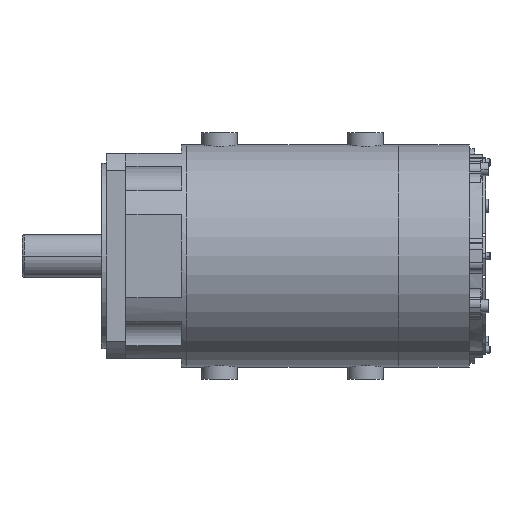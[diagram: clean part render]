
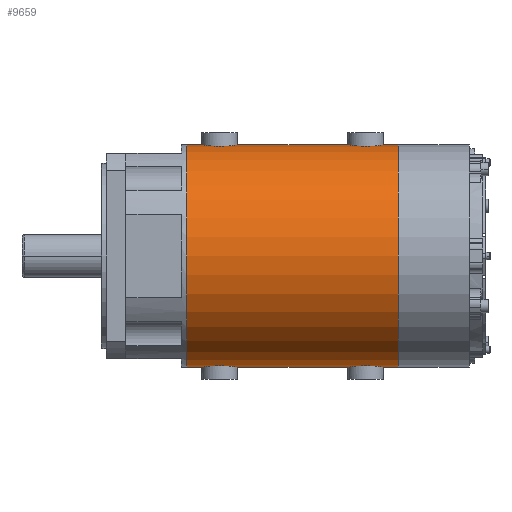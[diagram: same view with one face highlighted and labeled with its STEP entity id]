
A CAD part, front view. The second image highlights one B-rep face of the part: STEP entity #9659.
In plain terms, the highlighted cylindrical face has radius 108 mm (diameter 216 mm), a partial arc.
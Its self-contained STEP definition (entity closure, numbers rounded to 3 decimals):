
#7662=CARTESIAN_POINT('',(120.,0.,108.));
#7663=CARTESIAN_POINT('',(120.,-0.801,108.));
#7664=CARTESIAN_POINT('',(119.817,-2.364,107.983));
#7665=CARTESIAN_POINT('',(118.944,-4.697,107.905));
#7666=CARTESIAN_POINT('',(117.552,-6.697,107.797));
#7667=CARTESIAN_POINT('',(115.777,-8.281,107.685));
#7668=CARTESIAN_POINT('',(113.577,-9.45,107.587));
#7669=CARTESIAN_POINT('',(111.175,-10.026,107.534));
#7670=CARTESIAN_POINT('',(108.819,-10.025,107.534));
#7671=CARTESIAN_POINT('',(106.42,-9.449,107.587));
#7672=CARTESIAN_POINT('',(104.215,-8.277,107.685));
#7673=CARTESIAN_POINT('',(102.435,-6.682,107.798));
#7674=CARTESIAN_POINT('',(101.054,-4.691,107.906));
#7675=CARTESIAN_POINT('',(100.183,-2.363,107.983));
#7676=CARTESIAN_POINT('',(100.,-0.801,108.));
#7677=CARTESIAN_POINT('',(100.,0.,108.));
#7679=CARTESIAN_POINT('',(262.,0.,108.));
#7680=CARTESIAN_POINT('',(262.,-0.801,108.));
#7681=CARTESIAN_POINT('',(261.817,-2.364,107.983));
#7682=CARTESIAN_POINT('',(260.944,-4.697,107.905));
#7683=CARTESIAN_POINT('',(259.552,-6.697,107.797));
#7684=CARTESIAN_POINT('',(257.777,-8.281,107.685));
#7685=CARTESIAN_POINT('',(255.577,-9.45,107.587));
#7686=CARTESIAN_POINT('',(253.175,-10.026,107.534));
#7687=CARTESIAN_POINT('',(250.819,-10.025,107.534));
#7688=CARTESIAN_POINT('',(248.42,-9.449,107.587));
#7689=CARTESIAN_POINT('',(246.215,-8.277,107.685));
#7690=CARTESIAN_POINT('',(244.435,-6.682,107.798));
#7691=CARTESIAN_POINT('',(243.054,-4.691,107.906));
#7692=CARTESIAN_POINT('',(242.183,-2.363,107.983));
#7693=CARTESIAN_POINT('',(242.,-0.801,108.));
#7694=CARTESIAN_POINT('',(242.,0.,108.));
#7696=CARTESIAN_POINT('',(284.,0.,0.));
#7697=DIRECTION('',(1.,0.,0.));
#7698=DIRECTION('',(0.,0.,1.));
#7699=AXIS2_PLACEMENT_3D('',#7696,#7697,#7698);
#7701=DIRECTION('',(-1.,0.,0.));
#7702=VECTOR('',#7701,22.);
#7703=CARTESIAN_POINT('',(284.,0.,-108.));
#7704=LINE('',#7703,#7702);
#7705=CARTESIAN_POINT('',(242.,0.,-108.));
#7706=CARTESIAN_POINT('',(242.,-0.801,-108.));
#7707=CARTESIAN_POINT('',(242.183,-2.362,
-107.983));
#7708=CARTESIAN_POINT('',(243.054,-4.69,
-107.906));
#7709=CARTESIAN_POINT('',(244.435,-6.682,
-107.798));
#7710=CARTESIAN_POINT('',(246.214,-8.277,
-107.685));
#7711=CARTESIAN_POINT('',(248.419,-9.448,
-107.587));
#7712=CARTESIAN_POINT('',(250.818,-10.025,
-107.534));
#7713=CARTESIAN_POINT('',(253.175,-10.026,
-107.534));
#7714=CARTESIAN_POINT('',(255.577,-9.45,
-107.587));
#7715=CARTESIAN_POINT('',(257.777,-8.282,
-107.685));
#7716=CARTESIAN_POINT('',(259.552,-6.697,
-107.797));
#7717=CARTESIAN_POINT('',(260.944,-4.698,
-107.905));
#7718=CARTESIAN_POINT('',(261.817,-2.364,
-107.983));
#7719=CARTESIAN_POINT('',(262.,-0.801,-108.));
#7720=CARTESIAN_POINT('',(262.,0.,-108.));
#7722=DIRECTION('',(-1.,0.,0.));
#7723=VECTOR('',#7722,122.);
#7724=CARTESIAN_POINT('',(242.,0.,-108.));
#7725=LINE('',#7724,#7723);
#7726=CARTESIAN_POINT('',(100.,0.,-108.));
#7727=CARTESIAN_POINT('',(100.,-0.801,-108.));
#7728=CARTESIAN_POINT('',(100.183,-2.362,
-107.983));
#7729=CARTESIAN_POINT('',(101.054,-4.69,
-107.906));
#7730=CARTESIAN_POINT('',(102.435,-6.682,
-107.798));
#7731=CARTESIAN_POINT('',(104.214,-8.277,
-107.685));
#7732=CARTESIAN_POINT('',(106.419,-9.448,
-107.587));
#7733=CARTESIAN_POINT('',(108.818,-10.025,
-107.534));
#7734=CARTESIAN_POINT('',(111.175,-10.026,
-107.534));
#7735=CARTESIAN_POINT('',(113.577,-9.45,
-107.587));
#7736=CARTESIAN_POINT('',(115.777,-8.282,
-107.685));
#7737=CARTESIAN_POINT('',(117.552,-6.697,
-107.797));
#7738=CARTESIAN_POINT('',(118.944,-4.698,
-107.905));
#7739=CARTESIAN_POINT('',(119.817,-2.364,
-107.983));
#7740=CARTESIAN_POINT('',(120.,-0.801,-108.));
#7741=CARTESIAN_POINT('',(120.,0.,-108.));
#7743=DIRECTION('',(-1.,0.,0.));
#7744=VECTOR('',#7743,22.);
#7745=CARTESIAN_POINT('',(100.,0.,-108.));
#7746=LINE('',#7745,#7744);
#7747=CARTESIAN_POINT('',(78.,0.,0.));
#7748=DIRECTION('',(-1.,0.,0.));
#7749=DIRECTION('',(0.,0.,-1.));
#7750=AXIS2_PLACEMENT_3D('',#7747,#7748,#7749);
#9343=DIRECTION('',(-1.,0.,0.));
#9344=VECTOR('',#9343,22.);
#9345=CARTESIAN_POINT('',(100.,0.,108.));
#9346=LINE('',#9345,#9344);
#9391=DIRECTION('',(-1.,0.,0.));
#9392=VECTOR('',#9391,22.);
#9393=CARTESIAN_POINT('',(284.,0.,108.));
#9394=LINE('',#9393,#9392);
#9412=DIRECTION('',(-1.,0.,0.));
#9413=VECTOR('',#9412,122.);
#9414=CARTESIAN_POINT('',(242.,0.,108.));
#9415=LINE('',#9414,#9413);
#9432=CARTESIAN_POINT('',(284.,0.,-108.));
#9433=CARTESIAN_POINT('',(284.,0.,108.));
#9434=VERTEX_POINT('',#9432);
#9435=VERTEX_POINT('',#9433);
#9436=CARTESIAN_POINT('',(78.,0.,-108.));
#9437=CARTESIAN_POINT('',(78.,0.,108.));
#9438=VERTEX_POINT('',#9436);
#9439=VERTEX_POINT('',#9437);
#9604=VERTEX_POINT('',#7726);
#9605=VERTEX_POINT('',#7741);
#9606=VERTEX_POINT('',#7705);
#9607=VERTEX_POINT('',#7720);
#9612=CARTESIAN_POINT('',(120.,0.,108.));
#9614=VERTEX_POINT('',#9612);
#9616=CARTESIAN_POINT('',(100.,0.,108.));
#9618=VERTEX_POINT('',#9616);
#9620=CARTESIAN_POINT('',(262.,0.,108.));
#9622=VERTEX_POINT('',#9620);
#9624=CARTESIAN_POINT('',(242.,0.,108.));
#9626=VERTEX_POINT('',#9624);
#9628=CARTESIAN_POINT('',(284.,0.,0.));
#9629=DIRECTION('',(-1.,0.,0.));
#9630=DIRECTION('',(0.,0.,-1.));
#9631=AXIS2_PLACEMENT_3D('',#9628,#9629,#9630);
#9632=CYLINDRICAL_SURFACE('',#9631,108.);
#9634=ORIENTED_EDGE('',*,*,#9633,.F.);
#9636=ORIENTED_EDGE('',*,*,#9635,.F.);
#9638=ORIENTED_EDGE('',*,*,#9637,.F.);
#9640=ORIENTED_EDGE('',*,*,#9639,.F.);
#9642=ORIENTED_EDGE('',*,*,#9641,.T.);
#9644=ORIENTED_EDGE('',*,*,#9643,.T.);
#9646=ORIENTED_EDGE('',*,*,#9645,.F.);
#9648=ORIENTED_EDGE('',*,*,#9647,.T.);
#9650=ORIENTED_EDGE('',*,*,#9649,.F.);
#9652=ORIENTED_EDGE('',*,*,#9651,.T.);
#9654=ORIENTED_EDGE('',*,*,#9653,.T.);
#9656=ORIENTED_EDGE('',*,*,#9655,.F.);
#9657=EDGE_LOOP('',(#9634,#9636,#9638,#9640,#9642,#9644,#9646,#9648,#9650,#9652,
#9654,#9656));
#9658=FACE_OUTER_BOUND('',#9657,.F.);
#9659=ADVANCED_FACE('',(#9658),#9632,.T.);
#7678=B_SPLINE_CURVE_WITH_KNOTS('',3,(#7662,#7663,#7664,#7665,#7666,#7667,#7668,
#7669,#7670,#7671,#7672,#7673,#7674,#7675,#7676,#7677),.UNSPECIFIED.,.F.,.F.,(4,
1,1,1,1,1,1,1,1,1,1,1,1,4),(0.,0.077,0.154,
0.231,0.308,0.385,0.462,
0.538,0.615,0.692,0.769,
0.846,0.923,1.),.UNSPECIFIED.);
#7695=B_SPLINE_CURVE_WITH_KNOTS('',3,(#7679,#7680,#7681,#7682,#7683,#7684,#7685,
#7686,#7687,#7688,#7689,#7690,#7691,#7692,#7693,#7694),.UNSPECIFIED.,.F.,.F.,(4,
1,1,1,1,1,1,1,1,1,1,1,1,4),(0.,0.077,0.154,
0.231,0.308,0.385,0.462,
0.538,0.615,0.692,0.769,
0.846,0.923,1.),.UNSPECIFIED.);
#7700=CIRCLE('',#7699,108.);
#7721=B_SPLINE_CURVE_WITH_KNOTS('',3,(#7705,#7706,#7707,#7708,#7709,#7710,#7711,
#7712,#7713,#7714,#7715,#7716,#7717,#7718,#7719,#7720),.UNSPECIFIED.,.F.,.F.,(4,
1,1,1,1,1,1,1,1,1,1,1,1,4),(0.,0.077,0.154,
0.231,0.308,0.385,0.462,
0.538,0.615,0.692,0.769,
0.846,0.923,1.),.UNSPECIFIED.);
#7742=B_SPLINE_CURVE_WITH_KNOTS('',3,(#7726,#7727,#7728,#7729,#7730,#7731,#7732,
#7733,#7734,#7735,#7736,#7737,#7738,#7739,#7740,#7741),.UNSPECIFIED.,.F.,.F.,(4,
1,1,1,1,1,1,1,1,1,1,1,1,4),(0.,0.077,0.154,
0.231,0.308,0.385,0.462,
0.538,0.615,0.692,0.769,
0.846,0.923,1.),.UNSPECIFIED.);
#7751=CIRCLE('',#7750,108.);
#9633=EDGE_CURVE('',#9614,#9618,#7678,.T.);
#9635=EDGE_CURVE('',#9626,#9614,#9415,.T.);
#9637=EDGE_CURVE('',#9622,#9626,#7695,.T.);
#9639=EDGE_CURVE('',#9435,#9622,#9394,.T.);
#9641=EDGE_CURVE('',#9435,#9434,#7700,.T.);
#9643=EDGE_CURVE('',#9434,#9607,#7704,.T.);
#9645=EDGE_CURVE('',#9606,#9607,#7721,.T.);
#9647=EDGE_CURVE('',#9606,#9605,#7725,.T.);
#9649=EDGE_CURVE('',#9604,#9605,#7742,.T.);
#9651=EDGE_CURVE('',#9604,#9438,#7746,.T.);
#9653=EDGE_CURVE('',#9438,#9439,#7751,.T.);
#9655=EDGE_CURVE('',#9618,#9439,#9346,.T.);
